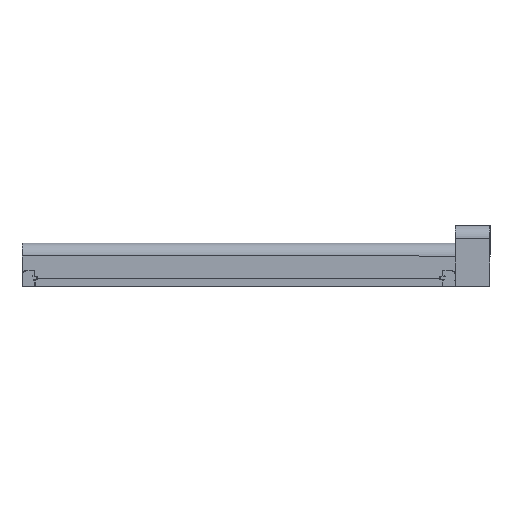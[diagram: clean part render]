
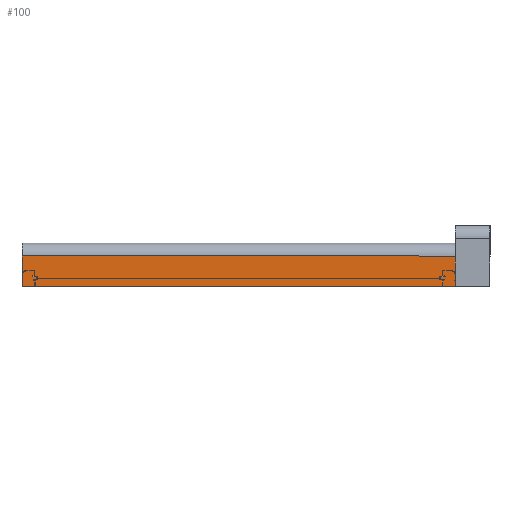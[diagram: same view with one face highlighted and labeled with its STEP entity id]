
A CAD part, front view. The second image highlights one B-rep face of the part: STEP entity #100.
In plain terms, the highlighted planar face has unit normal (0, -1, 0).
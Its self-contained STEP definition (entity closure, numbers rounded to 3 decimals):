
#100 = ADVANCED_FACE ( 'NONE', ( #3019 ), #4449, .F. ) ;
#224 = VECTOR ( 'NONE', #1326, 1000. ) ;
#384 = LINE ( 'NONE', #1200, #2770 ) ;
#410 = CARTESIAN_POINT ( 'NONE',  ( 2500., 3000., 0. ) ) ;
#512 = VECTOR ( 'NONE', #1690, 1000. ) ;
#644 = EDGE_CURVE ( 'NONE', #5625, #1017, #4983, .T. ) ;
#804 = ORIENTED_EDGE ( 'NONE', *, *, #1534, .F. ) ;
#851 = VERTEX_POINT ( 'NONE', #2261 ) ;
#980 = CARTESIAN_POINT ( 'NONE',  ( 2500., 3000., 0. ) ) ;
#1017 = VERTEX_POINT ( 'NONE', #2838 ) ;
#1143 = DIRECTION ( 'NONE',  ( 0., 0., -1. ) ) ;
#1200 = CARTESIAN_POINT ( 'NONE',  ( 2500., 3000., 0. ) ) ;
#1207 = EDGE_CURVE ( 'NONE', #1017, #851, #2501, .T. ) ;
#1326 = DIRECTION ( 'NONE',  ( -1., 0., 0. ) ) ;
#1534 = EDGE_CURVE ( 'NONE', #4590, #851, #4264, .T. ) ;
#1574 = EDGE_CURVE ( 'NONE', #5625, #4590, #384, .T. ) ;
#1649 = DIRECTION ( 'NONE',  ( 0., 0., -1. ) ) ;
#1690 = DIRECTION ( 'NONE',  ( -1., 0., 0. ) ) ;
#1883 = DIRECTION ( 'NONE',  ( 0., 0., 1. ) ) ;
#2194 = EDGE_LOOP ( 'NONE', ( #5147, #804, #4308, #3232 ) ) ;
#2261 = CARTESIAN_POINT ( 'NONE',  ( 0., 3000., 0. ) ) ;
#2501 = LINE ( 'NONE', #2911, #5486 ) ;
#2556 = CARTESIAN_POINT ( 'NONE',  ( 2500., 3000., 0. ) ) ;
#2770 = VECTOR ( 'NONE', #1649, 1000. ) ;
#2838 = CARTESIAN_POINT ( 'NONE',  ( 0., 3000., 175. ) ) ;
#2911 = CARTESIAN_POINT ( 'NONE',  ( 0., 3000., 0. ) ) ;
#3019 = FACE_OUTER_BOUND ( 'NONE', #2194, .T. ) ;
#3232 = ORIENTED_EDGE ( 'NONE', *, *, #644, .T. ) ;
#3821 = AXIS2_PLACEMENT_3D ( 'NONE', #980, #4913, #1883 ) ;
#4043 = CARTESIAN_POINT ( 'NONE',  ( 2500., 3000., 175. ) ) ;
#4264 = LINE ( 'NONE', #410, #512 ) ;
#4308 = ORIENTED_EDGE ( 'NONE', *, *, #1574, .F. ) ;
#4449 = PLANE ( 'NONE',  #3821 ) ;
#4590 = VERTEX_POINT ( 'NONE', #2556 ) ;
#4913 = DIRECTION ( 'NONE',  ( 0., 1., 0. ) ) ;
#4983 = LINE ( 'NONE', #5249, #224 ) ;
#5147 = ORIENTED_EDGE ( 'NONE', *, *, #1207, .T. ) ;
#5249 = CARTESIAN_POINT ( 'NONE',  ( 2500., 3000., 175. ) ) ;
#5486 = VECTOR ( 'NONE', #1143, 1000. ) ;
#5625 = VERTEX_POINT ( 'NONE', #4043 ) ;
